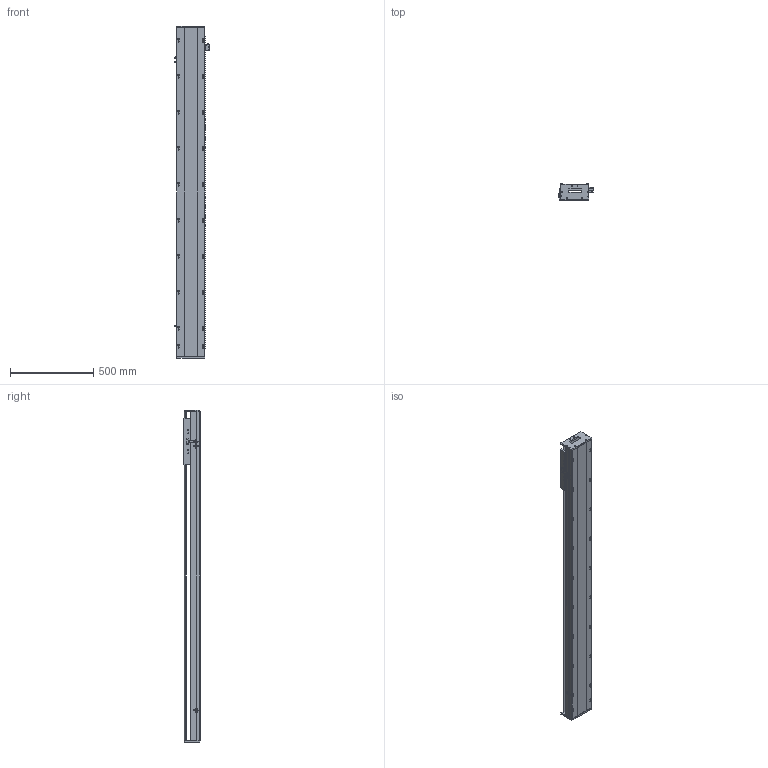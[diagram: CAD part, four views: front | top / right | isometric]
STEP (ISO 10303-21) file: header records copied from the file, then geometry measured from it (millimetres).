
FILE_DESCRIPTION (( 'STEP AP203' ), '1' );
FILE_NAME ('SKR17S-C2-S1612（简）.STEP', '2022-09-29T08:08:29', ( '' ), ( '' ), 'SwSTEP 2.0', 'SolidWorks 2018', '' );
FILE_SCHEMA (( 'CONFIG_CONTROL_DESIGN' ));
Length unit declared in the file: millimetre
Products named in the file (8): SIKO棠掑; 棠掑假蚾輸; SKR17滑台-280L（简）; EE-SX672; SKR17S-C2-S1612（简）; SKR17底座-C2-S1612（简); 感应片（SKR12S-14S-17S）; SKR17耜啣
Assembly tree (10 placements, depth 2):
  SKR17S-C2-S1612（简）
    SKR17底座-C2-S1612（简)
    SIKO棠掑
    EE-SX672  x3
    SKR17耜啣  x2
    棠掑假蚾輸
    SKR17滑台-280L（简）
    感应片（SKR12S-14S-17S）
Bounding box: 212.7 x 97 x 1992 mm (x, y, z)
Volume: 15694731.2 mm3; surface area: 1928342.8 mm2
Topology: 11 solids, 11 shells, 1288 faces, 3589 edges, 2303 vertices
Faces by surface type: cylinder 631, plane 523, cone 134
Entity records: 39715 total; most frequent: CARTESIAN_POINT 10527, ORIENTED_EDGE 6158, DIRECTION 5649, EDGE_CURVE 3079, AXIS2_PLACEMENT_3D 2009, VERTEX_POINT 2007, LINE 1631, VECTOR 1631
